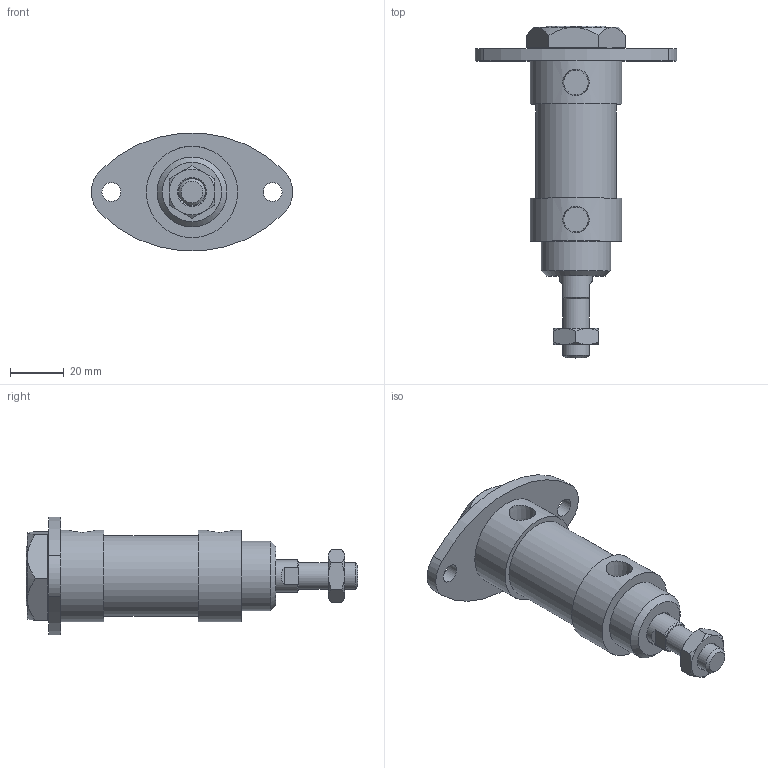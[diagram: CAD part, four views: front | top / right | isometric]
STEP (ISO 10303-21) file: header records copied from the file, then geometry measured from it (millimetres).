
FILE_DESCRIPTION(/* description */ ('Unknown'),/* implementation_level */ '2;1');
FILE_NAME(/* name */ 'WK25-FB',/* time_stamp */ '2026-07-17T16:31:13+08:00',/* author */ ('Unknown'),/* organization */ ('Unknown'),/* preprocessor_version */ 'ST-DEVELOPER v16.7',/* originating_system */ 'DEX',/* authorisation */ $);
FILE_SCHEMA (('CONFIG_CONTROL_DESIGN'));
Length unit declared in the file: millimetre
Products named in the file (8): WK25-FB; WK25_前; WK25_WK30_FA; WK25_¤ß¶b¬¡æ´»å¡žçµ„; WK25_後; WK25_鋁; M26-1.5P-8_Á³Traditional)_Taiwan.950; M10-1.25P-6_螺
Assembly tree (7 placements, depth 2):
  WK25-FB
    WK25_前
    WK25_WK30_FA
    WK25_¤ß¶b¬¡æ´»å¡žçµ„
    WK25_後
    WK25_鋁
    M26-1.5P-8_Á³Traditional)_Taiwan.950
    M10-1.25P-6_螺
Bounding box: 74.92 x 123.5 x 43.63 mm (x, y, z)
Volume: 82720.6 mm3; surface area: 31467.7 mm2
Topology: 7 solids, 7 shells, 99 faces, 209 edges, 131 vertices
Faces by surface type: plane 45, cone 32, cylinder 22
Full cylindrical faces by diameter (mm): 7 x2, 8.75 x1, 10 x1, 12 x2, 24.5 x2, 25 x1, 26 x3, 27 x2, 30 x1, 32 x1, 34 x2
Entity records: 3265 total; most frequent: CARTESIAN_POINT 565, DIRECTION 422, ORIENTED_EDGE 330, AXIS2_PLACEMENT_3D 192, EDGE_CURVE 165, EDGE_LOOP 150, FACE_BOUND 150, VERTEX_POINT 117
